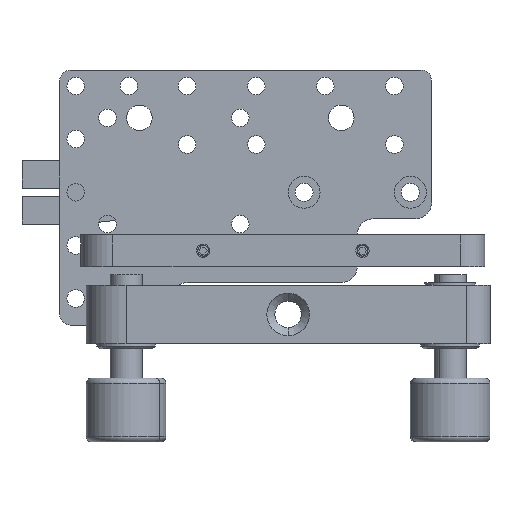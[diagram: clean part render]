
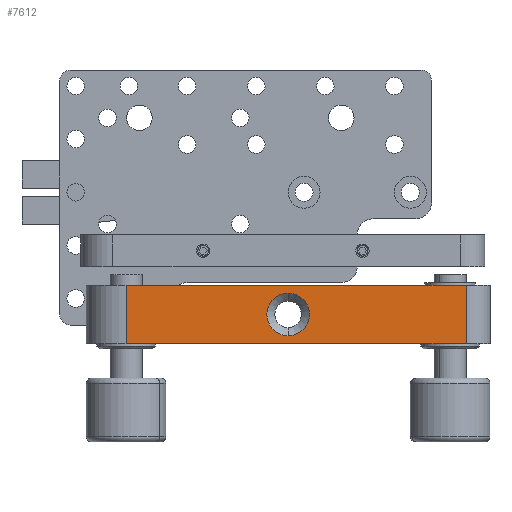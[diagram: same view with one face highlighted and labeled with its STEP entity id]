
A CAD part, front view. The second image highlights one B-rep face of the part: STEP entity #7612.
In plain terms, the highlighted planar face has unit normal (0, -1, 0).
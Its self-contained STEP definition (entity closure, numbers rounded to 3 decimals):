
#644 = LINE ( 'NONE', #10082, #3820 ) ;
#812 = ORIENTED_EDGE ( 'NONE', *, *, #5643, .T. ) ;
#1017 = CIRCLE ( 'NONE', #10578, 4. ) ;
#1126 = DIRECTION ( 'NONE',  ( 0., 0., -1. ) ) ;
#1362 = ORIENTED_EDGE ( 'NONE', *, *, #8542, .F. ) ;
#2404 = CIRCLE ( 'NONE', #10084, 4. ) ;
#2482 = LINE ( 'NONE', #12593, #11308 ) ;
#2804 = DIRECTION ( 'NONE',  ( 1., 0., 0. ) ) ;
#3042 = EDGE_CURVE ( 'NONE', #4557, #13670, #2404, .T. ) ;
#3181 = LINE ( 'NONE', #13590, #6916 ) ;
#3629 = PLANE ( 'NONE',  #7109 ) ;
#3643 = CARTESIAN_POINT ( 'NONE',  ( 0., -38., 5.5 ) ) ;
#3671 = FACE_BOUND ( 'NONE', #4045, .T. ) ;
#3817 = VERTEX_POINT ( 'NONE', #8701 ) ;
#3820 = VECTOR ( 'NONE', #12159, 1000. ) ;
#4045 = EDGE_LOOP ( 'NONE', ( #8249, #1362 ) ) ;
#4557 = VERTEX_POINT ( 'NONE', #6367 ) ;
#4808 = DIRECTION ( 'NONE',  ( 1., 0., 0. ) ) ;
#5447 = CARTESIAN_POINT ( 'NONE',  ( -30.5, -38., 11. ) ) ;
#5643 = EDGE_CURVE ( 'NONE', #13593, #6492, #2482, .T. ) ;
#5868 = DIRECTION ( 'NONE',  ( 0., 1., 0. ) ) ;
#6109 = EDGE_CURVE ( 'NONE', #8001, #3817, #3181, .T. ) ;
#6367 = CARTESIAN_POINT ( 'NONE',  ( 0., -38., 1.5 ) ) ;
#6492 = VERTEX_POINT ( 'NONE', #8028 ) ;
#6610 = DIRECTION ( 'NONE',  ( 0., -1., 0. ) ) ;
#6916 = VECTOR ( 'NONE', #2804, 1000. ) ;
#7109 = AXIS2_PLACEMENT_3D ( 'NONE', #13802, #5868, #8221 ) ;
#7612 = ADVANCED_FACE ( 'NONE', ( #3671, #14413 ), #3629, .F. ) ;
#7668 = ORIENTED_EDGE ( 'NONE', *, *, #6109, .F. ) ;
#7837 = CARTESIAN_POINT ( 'NONE',  ( -30.5, -38., 0. ) ) ;
#8001 = VERTEX_POINT ( 'NONE', #5447 ) ;
#8028 = CARTESIAN_POINT ( 'NONE',  ( 33.5, -38., 0. ) ) ;
#8221 = DIRECTION ( 'NONE',  ( -1., 0., 0. ) ) ;
#8249 = ORIENTED_EDGE ( 'NONE', *, *, #3042, .F. ) ;
#8542 = EDGE_CURVE ( 'NONE', #13670, #4557, #1017, .T. ) ;
#8576 = CARTESIAN_POINT ( 'NONE',  ( -30.5, -38., 0. ) ) ;
#8701 = CARTESIAN_POINT ( 'NONE',  ( 33.5, -38., 11. ) ) ;
#9244 = VECTOR ( 'NONE', #9714, 1000. ) ;
#9714 = DIRECTION ( 'NONE',  ( 0., 0., 1. ) ) ;
#9947 = EDGE_CURVE ( 'NONE', #13593, #8001, #11872, .T. ) ;
#10082 = CARTESIAN_POINT ( 'NONE',  ( 33.5, -38., 11. ) ) ;
#10084 = AXIS2_PLACEMENT_3D ( 'NONE', #3643, #12571, #10287 ) ;
#10156 = ORIENTED_EDGE ( 'NONE', *, *, #12782, .T. ) ;
#10287 = DIRECTION ( 'NONE',  ( 0., 0., -1. ) ) ;
#10578 = AXIS2_PLACEMENT_3D ( 'NONE', #13454, #6610, #1126 ) ;
#11308 = VECTOR ( 'NONE', #4808, 1000. ) ;
#11872 = LINE ( 'NONE', #8576, #9244 ) ;
#12159 = DIRECTION ( 'NONE',  ( 0., 0., 1. ) ) ;
#12571 = DIRECTION ( 'NONE',  ( 0., -1., 0. ) ) ;
#12593 = CARTESIAN_POINT ( 'NONE',  ( 38., -38., 0. ) ) ;
#12782 = EDGE_CURVE ( 'NONE', #6492, #3817, #644, .T. ) ;
#12830 = EDGE_LOOP ( 'NONE', ( #812, #10156, #7668, #12852 ) ) ;
#12852 = ORIENTED_EDGE ( 'NONE', *, *, #9947, .F. ) ;
#13454 = CARTESIAN_POINT ( 'NONE',  ( 0., -38., 5.5 ) ) ;
#13457 = CARTESIAN_POINT ( 'NONE',  ( 0., -38., 9.5 ) ) ;
#13590 = CARTESIAN_POINT ( 'NONE',  ( 38., -38., 11. ) ) ;
#13593 = VERTEX_POINT ( 'NONE', #7837 ) ;
#13670 = VERTEX_POINT ( 'NONE', #13457 ) ;
#13802 = CARTESIAN_POINT ( 'NONE',  ( 38., -38., 11. ) ) ;
#14413 = FACE_OUTER_BOUND ( 'NONE', #12830, .T. ) ;
